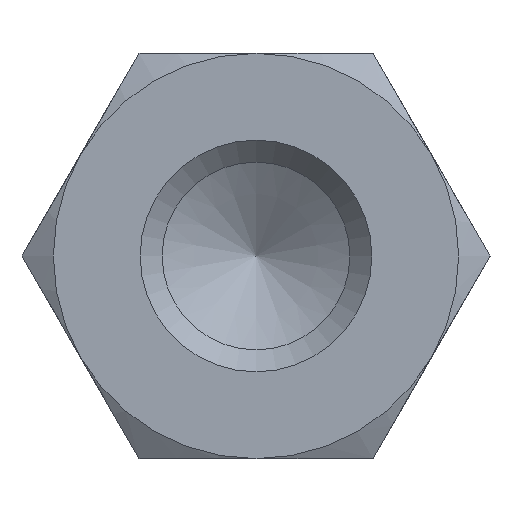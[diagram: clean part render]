
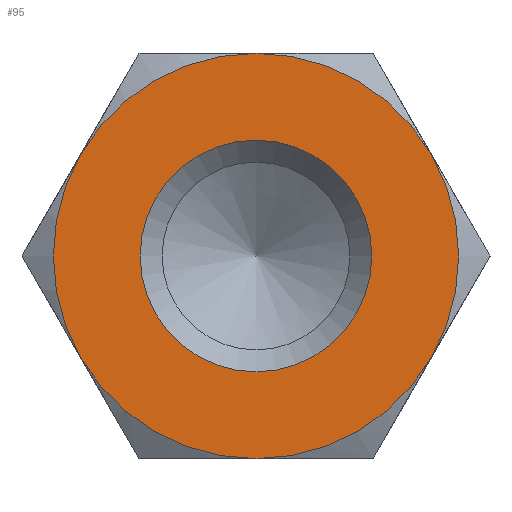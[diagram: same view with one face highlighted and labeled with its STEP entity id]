
A CAD part, left-side view. The second image highlights one B-rep face of the part: STEP entity #95.
In plain terms, the highlighted planar face has unit normal (-1, 0, 0).
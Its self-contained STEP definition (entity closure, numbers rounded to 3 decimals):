
#95 = ADVANCED_FACE( '', ( #147, #148 ), #149, .F. );
#147 = FACE_OUTER_BOUND( '', #206, .T. );
#148 = FACE_BOUND( '', #207, .T. );
#149 = PLANE( '', #208 );
#206 = EDGE_LOOP( '', ( #356, #357, #358, #359, #360, #361 ) );
#207 = EDGE_LOOP( '', ( #362 ) );
#208 = AXIS2_PLACEMENT_3D( '', #363, #364, #365 );
#356 = ORIENTED_EDGE( '', *, *, #440, .F. );
#357 = ORIENTED_EDGE( '', *, *, #425, .F. );
#358 = ORIENTED_EDGE( '', *, *, #441, .F. );
#359 = ORIENTED_EDGE( '', *, *, #437, .F. );
#360 = ORIENTED_EDGE( '', *, *, #442, .F. );
#361 = ORIENTED_EDGE( '', *, *, #443, .F. );
#362 = ORIENTED_EDGE( '', *, *, #439, .T. );
#363 = CARTESIAN_POINT( '', ( -70., 0., 0. ) );
#364 = DIRECTION( '', ( 1., 0., 0. ) );
#365 = DIRECTION( '', ( 0., 0., -1. ) );
#425 = EDGE_CURVE( '', #495, #493, #497, .T. );
#437 = EDGE_CURVE( '', #447, #506, #513, .T. );
#439 = EDGE_CURVE( '', #516, #516, #517, .T. );
#440 = EDGE_CURVE( '', #493, #486, #518, .T. );
#441 = EDGE_CURVE( '', #506, #495, #519, .T. );
#442 = EDGE_CURVE( '', #481, #447, #520, .T. );
#443 = EDGE_CURVE( '', #486, #481, #521, .T. );
#447 = VERTEX_POINT( '', #525 );
#481 = VERTEX_POINT( '', #595 );
#486 = VERTEX_POINT( '', #611 );
#493 = VERTEX_POINT( '', #632 );
#495 = VERTEX_POINT( '', #637 );
#497 = CIRCLE( '', #644, 3.5 );
#506 = VERTEX_POINT( '', #670 );
#513 = CIRCLE( '', #701, 3.5 );
#516 = VERTEX_POINT( '', #704 );
#517 = CIRCLE( '', #705, 2. );
#518 = CIRCLE( '', #706, 3.5 );
#519 = CIRCLE( '', #707, 3.5 );
#520 = CIRCLE( '', #708, 3.5 );
#521 = CIRCLE( '', #709, 3.5 );
#525 = CARTESIAN_POINT( '', ( -70., -3.031, 1.75 ) );
#595 = CARTESIAN_POINT( '', ( -70., 0., 3.5 ) );
#611 = CARTESIAN_POINT( '', ( -70., 3.031, 1.75 ) );
#632 = CARTESIAN_POINT( '', ( -70., 3.031, -1.75 ) );
#637 = CARTESIAN_POINT( '', ( -70., 0., -3.5 ) );
#644 = AXIS2_PLACEMENT_3D( '', #744, #745, #746 );
#670 = CARTESIAN_POINT( '', ( -70., -3.031, -1.75 ) );
#701 = AXIS2_PLACEMENT_3D( '', #749, #750, #751 );
#704 = CARTESIAN_POINT( '', ( -70., 0., -2. ) );
#705 = AXIS2_PLACEMENT_3D( '', #755, #756, #757 );
#706 = AXIS2_PLACEMENT_3D( '', #758, #759, #760 );
#707 = AXIS2_PLACEMENT_3D( '', #761, #762, #763 );
#708 = AXIS2_PLACEMENT_3D( '', #764, #765, #766 );
#709 = AXIS2_PLACEMENT_3D( '', #767, #768, #769 );
#744 = CARTESIAN_POINT( '', ( -70., 0., 0. ) );
#745 = DIRECTION( '', ( 1., 0., 0. ) );
#746 = DIRECTION( '', ( 0., 0., -1. ) );
#749 = CARTESIAN_POINT( '', ( -70., 0., 0. ) );
#750 = DIRECTION( '', ( 1., 0., 0. ) );
#751 = DIRECTION( '', ( 0., 0., -1. ) );
#755 = CARTESIAN_POINT( '', ( -70., 0., 0. ) );
#756 = DIRECTION( '', ( 1., 0., 0. ) );
#757 = DIRECTION( '', ( 0., 0., -1. ) );
#758 = CARTESIAN_POINT( '', ( -70., 0., 0. ) );
#759 = DIRECTION( '', ( 1., 0., 0. ) );
#760 = DIRECTION( '', ( 0., 0., -1. ) );
#761 = CARTESIAN_POINT( '', ( -70., 0., 0. ) );
#762 = DIRECTION( '', ( 1., 0., 0. ) );
#763 = DIRECTION( '', ( 0., 0., -1. ) );
#764 = CARTESIAN_POINT( '', ( -70., 0., 0. ) );
#765 = DIRECTION( '', ( 1., 0., 0. ) );
#766 = DIRECTION( '', ( 0., 0., -1. ) );
#767 = CARTESIAN_POINT( '', ( -70., 0., 0. ) );
#768 = DIRECTION( '', ( 1., 0., 0. ) );
#769 = DIRECTION( '', ( 0., 0., -1. ) );
